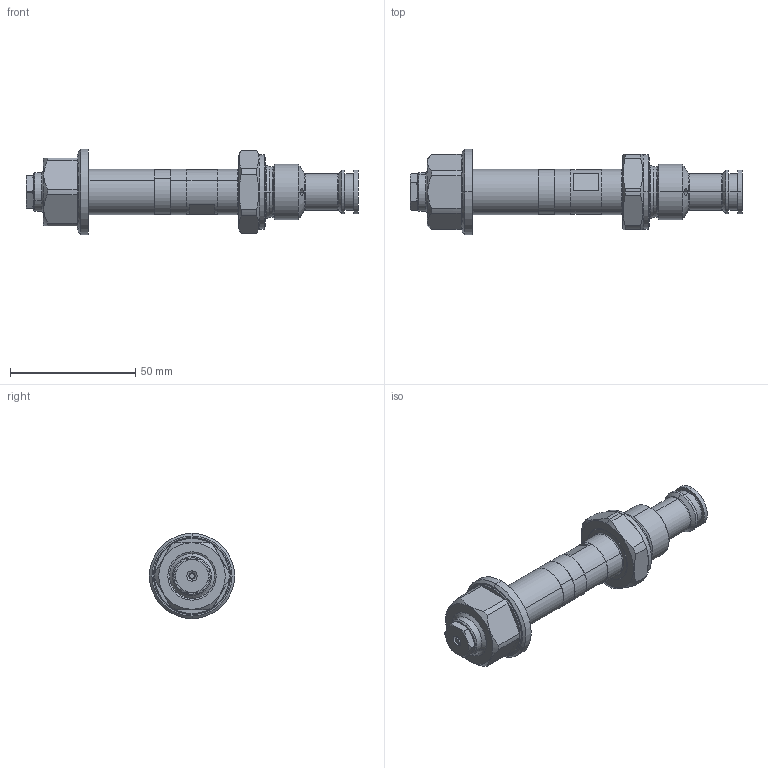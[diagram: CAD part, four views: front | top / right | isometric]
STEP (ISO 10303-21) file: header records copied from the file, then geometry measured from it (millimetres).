
FILE_DESCRIPTION (( 'STEP AP203' ), '1' );
FILE_NAME ('BDBPM22.step', '2013-07-09T12:34:12', ( 'Wandfluh AG' ), ( 'Wandfluh AG' ), 'SwSTEP 2.0', 'SolidWorks 2012', '' );
FILE_SCHEMA (( 'CONFIG_CONTROL_DESIGN' ));
Length unit declared in the file: millimetre
Products named in the file (1): BDBPM22
Bounding box: 132.6 x 34 x 34 mm (x, y, z)
Volume: 46189.2 mm3; surface area: 18784.1 mm2
Topology: 9 solids, 9 shells, 332 faces, 741 edges, 443 vertices
Faces by surface type: cylinder 111, cone 83, plane 68, torus 54, bspline 16
Entity records: 9859 total; most frequent: CARTESIAN_POINT 2319, DIRECTION 1724, ORIENTED_EDGE 1466, AXIS2_PLACEMENT_3D 748, EDGE_CURVE 733, VERTEX_POINT 443, CIRCLE 431, EDGE_LOOP 368
